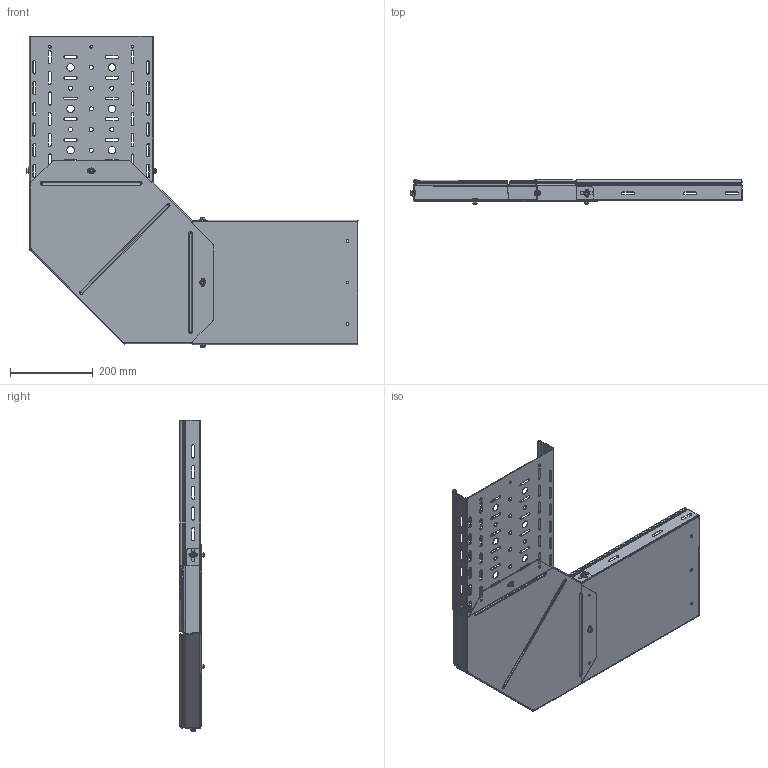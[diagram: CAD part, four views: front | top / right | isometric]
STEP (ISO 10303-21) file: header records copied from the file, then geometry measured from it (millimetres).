
FILE_DESCRIPTION (( 'STEP AP214' ), '1' );
FILE_NAME ('ﾓﾑﾏﾐ+ﾓﾋ(ﾍ)+ﾓﾋ(ﾏ)_50.STEP', '2016-10-06T19:48:41', ( '' ), ( '' ), 'SwSTEP 2.0', 'SolidWorks 2016', '' );
FILE_SCHEMA (( 'AUTOMOTIVE_DESIGN' ));
Length unit declared in the file: millimetre
Products named in the file (6): pan head cross recess screw_din_ISO 7045 - M6 x 10 - Z --- 10N; hex flange nut_din_Hexagon Flange Nut DIN 6923 - M6 - N; ÓË(Ï)-300õÍõ550_3000.1,5.300.50; ÓË(Í)-300õÍõ550_3000.1,5.300.50; 080335 ÓÑÏÐ-300õ50; ﾓﾑﾏﾐ+ﾓﾋ(ﾍ)+ﾓﾋ(ﾏ)_50
Assembly tree (15 placements, depth 2):
  ﾓﾑﾏﾐ+ﾓﾋ(ﾍ)+ﾓﾋ(ﾏ)_50
    080335 ÓÑÏÐ-300õ50
    ÓË(Í)-300õÍõ550_3000.1,5.300.50
    ÓË(Ï)-300õÍõ550_3000.1,5.300.50
    hex flange nut_din_Hexagon Flange Nut DIN 6923 - M6 - N  x6
    pan head cross recess screw_din_ISO 7045 - M6 x 10 - Z --- 10N  x6
Bounding box: 801.84 x 58.5 x 751.84 mm (x, y, z)
Volume: 656042.2 mm3; surface area: 1020676.7 mm2
Topology: 15 solids, 15 shells, 1105 faces, 2751 edges, 1676 vertices
Faces by surface type: plane 488, cylinder 375, cone 108, bspline 62, torus 48, sphere 24
Entity records: 25135 total; most frequent: CARTESIAN_POINT 5583, DIRECTION 4071, ORIENTED_EDGE 3958, EDGE_CURVE 1979, AXIS2_PLACEMENT_3D 1469, VERTEX_POINT 1221, VECTOR 1133, LINE 1133
